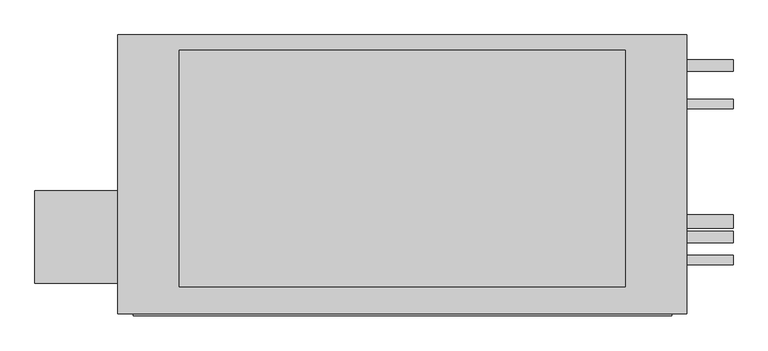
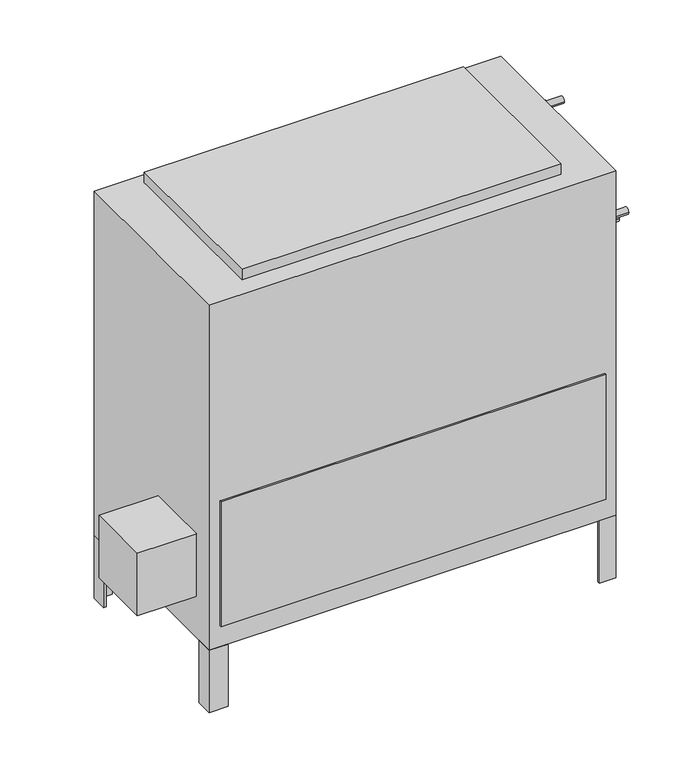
"""IFC4 building model written with IfcOpenShell, lengths in millimetres: proxy geometry, Concealed_High_Capacity_Vertical_Fan_Coil_Unit_-_42DDA_-_CARRIER_-_4-Pipe_RH_2022 : Size 12 - 277v/60Hz/1Ph - 4/2 Coil."""

import ifcopenshell
import ifcopenshell.guid

model = None  # the IFC model being written
_history = None  # IfcOwnerHistory: only IFC2X3 demands one
_inside = {}  # id of a spatial element -> (the spatial element, [elements in it])
_under = {}  # id of a project, library or spatial element -> (it, [spatial elements below it])
_declared = {}  # id of a project -> (the project, [libraries it declares])
_typed = {}  # id of a type object -> (the type object, [elements of that type])
_made_of = {}  # id of a material, layer set ... -> (it, [elements and type objects made of it])


def new_model(schema):
    """Start an empty IFC model of exactly this schema.

    Asked for "IFC4X3", IfcOpenShell would pick the latest addendum, in which some entities
    have other attributes; the version numbers below select the first issue.
    IFC2X3 requires an IfcOwnerHistory on every rooted entity: one is made here for all.
    """
    global model, _history
    if schema == "IFC4X3":
        model = ifcopenshell.file(schema_version=(4, 3, 0, 0))
    else:
        model = ifcopenshell.file(schema=schema)
    _inside.clear()
    _under.clear()
    _declared.clear()
    _typed.clear()
    _made_of.clear()
    _history = None
    if model.schema == "IFC2X3":
        org = make("IfcOrganization", Name="unknown")
        user = make(
            "IfcPersonAndOrganization",
            ThePerson=make("IfcPerson", FamilyName="unknown"),
            TheOrganization=org,
        )
        app = make(
            "IfcApplication",
            ApplicationDeveloper=org,
            Version="unknown",
            ApplicationFullName="unknown",
            ApplicationIdentifier="unknown",
        )
        _history = make(
            "IfcOwnerHistory",
            OwningUser=user,
            OwningApplication=app,
            ChangeAction="ADDED",
            CreationDate=0,
        )
    return model


def make(cls, **values):
    """One entity of the class cls with the attributes given. An attribute that is None is left unset."""
    return model.create_entity(
        cls, **{name: value for name, value in values.items() if value is not None}
    )


def rooted(cls, **values):
    """An entity with a GlobalId (a new one), such as an element, a storey or a relation."""
    return make(cls, GlobalId=ifcopenshell.guid.new(), OwnerHistory=_history, **values)


def si_unit(unit_type, name, prefix=None):
    """IfcSIUnit, for example si_unit("LENGTHUNIT", "METRE", prefix="MILLI")."""
    return make("IfcSIUnit", UnitType=unit_type, Prefix=prefix, Name=name)


def assignment(units):
    """IfcUnitAssignment: the units of a project."""
    return None if units is None else make("IfcUnitAssignment", Units=units)


def point(xyz):
    """IfcCartesianPoint."""
    return None if xyz is None else make("IfcCartesianPoint", Coordinates=xyz)


def direction(xyz):
    """IfcDirection."""
    return None if xyz is None else make("IfcDirection", DirectionRatios=xyz)


def frame(location, z_axis=None, x_axis=None):
    """IfcAxis2Placement3D, a coordinate frame: its origin and axes. An axis left out is left unset."""
    return make(
        "IfcAxis2Placement3D",
        Location=point(location),
        Axis=direction(z_axis),
        RefDirection=direction(x_axis),
    )


def frame_2d(location, x_axis=None):
    """IfcAxis2Placement2D, a coordinate frame in the plane: its origin and x axis."""
    return make(
        "IfcAxis2Placement2D", Location=point(location), RefDirection=direction(x_axis)
    )


def origin():
    """The frame at (0, 0, 0) with its axes left unset."""
    return frame((0.0, 0.0, 0.0))


def origin_with_axes():
    """The frame at (0, 0, 0) with the z axis (0, 0, 1) and the x axis (1, 0, 0) written out."""
    return frame((0.0, 0.0, 0.0), z_axis=(0.0, 0.0, 1.0), x_axis=(1.0, 0.0, 0.0))


def place(relative_to, where):
    """IfcLocalPlacement: puts the frame where relative to a parent placement (None: the world)."""
    return make(
        "IfcLocalPlacement", PlacementRelTo=relative_to, RelativePlacement=where
    )


def context(
    kind, dimensions, precision=None, world=None, true_north=None, identifier=None
):
    """IfcGeometricRepresentationContext, for example the 3D "Model" context."""
    return make(
        "IfcGeometricRepresentationContext",
        ContextIdentifier=identifier,
        ContextType=kind,
        CoordinateSpaceDimension=dimensions,
        Precision=precision,
        WorldCoordinateSystem=world,
        TrueNorth=true_north,
    )


def project(units=None, contexts=None):
    """IfcProject with its units and contexts."""
    return rooted(
        "IfcProject",
        Name="project",
        RepresentationContexts=contexts,
        UnitsInContext=assignment(units),
    )


def spatial(cls, under=None, at=None, **own):
    """A site, building, storey or space (cls), placed at a placement, below another one or the project."""
    s = rooted(cls, ObjectPlacement=at, **own)
    if under is not None:
        _under.setdefault(under.id(), (under, []))[1].append(s)
    return s


def polyline(points):
    """IfcPolyline through the points."""
    return make("IfcPolyline", Points=[point(p) for p in points])


def circle_curve(where, radius):
    """IfcCircle in the frame where."""
    return make("IfcCircle", Position=where, Radius=radius)


def trimmed(basis, trim1, trim2, sense, master):
    """IfcTrimmedCurve: the piece of a basis curve between two trims."""
    return make(
        "IfcTrimmedCurve",
        BasisCurve=basis,
        Trim1=trim1,
        Trim2=trim2,
        SenseAgreement=sense,
        MasterRepresentation=master,
    )


def segment(curve, same_sense, transition):
    """IfcCompositeCurveSegment."""
    return make(
        "IfcCompositeCurveSegment",
        Transition=transition,
        SameSense=same_sense,
        ParentCurve=curve,
    )


def composite_curve(segments, self_intersect=None):
    """IfcCompositeCurve: segments joined end to end."""
    return make("IfcCompositeCurve", Segments=segments, SelfIntersect=self_intersect)


def outline(outer, holes=None, kind="AREA"):
    """IfcArbitraryClosedProfileDef: a profile drawn as a closed curve; with holes, ...WithVoids."""
    if holes is None:
        return make("IfcArbitraryClosedProfileDef", ProfileType=kind, OuterCurve=outer)
    return make(
        "IfcArbitraryProfileDefWithVoids",
        ProfileType=kind,
        OuterCurve=outer,
        InnerCurves=holes,
    )


def extrude(swept, where, along, depth):
    """IfcExtrudedAreaSolid: the profile swept, set in the frame where, extruded along a direction by depth."""
    return make(
        "IfcExtrudedAreaSolid",
        SweptArea=swept,
        Position=where,
        ExtrudedDirection=direction(along),
        Depth=depth,
    )


def shape(context_of_items, identifier, shape_type, items):
    """IfcShapeRepresentation: the items that make up one representation, for example the "Body"."""
    return make(
        "IfcShapeRepresentation",
        ContextOfItems=context_of_items,
        RepresentationIdentifier=identifier,
        RepresentationType=shape_type,
        Items=items,
    )


def source(mapping_origin, context_of_items, identifier, shape_type, items):
    """IfcRepresentationMap: a shape defined once, which mapped items show again and again."""
    return make(
        "IfcRepresentationMap",
        MappingOrigin=mapping_origin,
        MappedRepresentation=shape(context_of_items, identifier, shape_type, items),
    )


def transform(
    local_origin,
    x_axis=None,
    y_axis=None,
    z_axis=None,
    scale=None,
    scale2=None,
    scale3=None,
    uniform=True,
):
    """IfcCartesianTransformationOperator3D, or its non-uniform kind. x_axis, y_axis, z_axis: its Axis1, 2, 3."""
    if uniform:
        return make(
            "IfcCartesianTransformationOperator3D",
            Axis1=direction(x_axis),
            Axis2=direction(y_axis),
            LocalOrigin=point(local_origin),
            Scale=scale,
            Axis3=direction(z_axis),
        )
    return make(
        "IfcCartesianTransformationOperator3DnonUniform",
        Axis1=direction(x_axis),
        Axis2=direction(y_axis),
        LocalOrigin=point(local_origin),
        Scale=scale,
        Axis3=direction(z_axis),
        Scale2=scale2,
        Scale3=scale3,
    )


def mapped(mapping_source, mapping_target):
    """IfcMappedItem: shows the shape of a source again, moved by a transform."""
    return make(
        "IfcMappedItem", MappingSource=mapping_source, MappingTarget=mapping_target
    )


def made_of(thing, what):
    """Note that an element or type object is made of a material, layer set ...; save() writes the relation."""
    if what is not None:
        _made_of.setdefault(what.id(), (what, []))[1].append(thing)
    return thing


def element(
    cls,
    number,
    at=None,
    inside=None,
    cuts=None,
    type_object=None,
    material=None,
    context=None,
    identifier="Body",
    shape_type=None,
    held_by="IfcProductDefinitionShape",
    body=None,
    shapes=None,
    **own,
):
    """One element of the class cls, such as IfcWall. Its Tag is "e" and its number.

    at: its placement. inside: the storey or other place that contains it. cuts: it is an
    opening in that element (IfcRelVoidsElement). A single representation is given by context,
    identifier, shape_type and body (its items); several are given by shapes. held_by: the class
    of the entity that holds the representations. save() writes the other relations.
    """
    e = rooted(cls, Tag="e%d" % number, ObjectPlacement=at, **own)
    if body is not None:
        shapes = [shape(context, identifier, shape_type, body)]
    if shapes is not None:
        e.Representation = make(held_by, Representations=shapes)
    if inside is not None:
        _inside.setdefault(inside.id(), (inside, []))[1].append(e)
    if cuts is not None:
        rooted(
            "IfcRelVoidsElement", RelatingBuildingElement=cuts, RelatedOpeningElement=e
        )
    if type_object is not None:
        _typed.setdefault(type_object.id(), (type_object, []))[1].append(e)
    return made_of(e, material)


def aggregate(whole, parts):
    """IfcRelAggregates: a whole, such as a stair, and the parts it consists of."""
    return rooted("IfcRelAggregates", RelatingObject=whole, RelatedObjects=parts)


def save(model, path):
    """Write the relations noted so far, then the file.

    IfcRelAggregates (storeys below a building ...), IfcRelContainedInSpatialStructure (elements
    in a storey), IfcRelDefinesByType, IfcRelAssociatesMaterial and IfcRelDeclares: one each for
    every whole, place, type object, material and project.
    """
    for whole, parts in _under.values():
        aggregate(whole, parts)
    for where, things in _inside.values():
        rooted(
            "IfcRelContainedInSpatialStructure",
            RelatedElements=things,
            RelatingStructure=where,
        )
    for kind, things in _typed.values():
        rooted("IfcRelDefinesByType", RelatedObjects=things, RelatingType=kind)
    for what, things in _made_of.values():
        rooted("IfcRelAssociatesMaterial", RelatedObjects=things, RelatingMaterial=what)
    for by, libraries in _declared.values():
        rooted("IfcRelDeclares", RelatingContext=by, RelatedDefinitions=libraries)
    model.write(path)


def mechanical_equipment_dd7bbd71(model_context):
    return source(origin(), model_context, "Body", "SweptSolid", [
        extrude(outline(polyline([(-454.025, -417.5125), (-454.025, -265.1125), (-317.5, -265.1125), (-317.5, -417.5125), (-454.025, -417.5125)])), frame((0.0, 0.0, 101.6), z_axis=(0.0, 0.0, 1.0), x_axis=(1.0, 0.0, 0.0)), (0.0, 0.0, 1.0), 152.4),
        extrude(outline(polyline([(622.3, -46.0375), (615.95, -46.0375), (615.95, -14.2875), (584.2, -14.2875), (584.2, -7.9375), (622.3, -7.9375), (622.3, -46.0375)])), frame((0.0, 0.0, -152.4), z_axis=(0.0, 0.0, 1.0), x_axis=(1.0, 0.0, 0.0)), (0.0, 0.0, 1.0), 152.4),
        extrude(outline(polyline([(-279.4, -7.9375), (-279.4, -14.2875), (-311.15, -14.2875), (-311.15, -46.0375), (-317.5, -46.0375), (-317.5, -7.9375), (-279.4, -7.9375)])), frame((0.0, 0.0, -152.4), z_axis=(0.0, 0.0, 1.0), x_axis=(1.0, 0.0, 0.0)), (0.0, 0.0, 1.0), 152.4),
        extrude(outline(polyline([(584.2, -468.3125), (584.2, -461.9625), (615.95, -461.9625), (615.95, -430.2125), (622.3, -430.2125), (622.3, -468.3125), (584.2, -468.3125)])), frame((0.0, 0.0, -152.4), z_axis=(0.0, 0.0, 1.0), x_axis=(1.0, 0.0, 0.0)), (0.0, 0.0, 1.0), 152.4),
        extrude(outline(polyline([(-317.5, -428.1199163), (-311.15, -428.1199163), (-311.15, -461.9625), (-274.0318533, -461.9625), (-274.0318533, -468.3125), (-317.5, -468.3125), (-317.5, -428.1199163)])), frame((0.0, 0.0, -152.4), z_axis=(0.0, 0.0, 1.0), x_axis=(1.0, 0.0, 0.0)), (0.0, 0.0, 1.0), 152.4),
        extrude(outline(polyline([(520.7, -33.3375), (520.7, -423.8625), (-215.9, -423.8625), (-215.9, -33.3375), (520.7, -33.3375)])), frame((0.0, 0.0, 841.375), z_axis=(0.0, 0.0, 1.0), x_axis=(1.0, 0.0, 0.0)), (0.0, 0.0, 1.0), 25.4),
        extrude(outline(polyline([(596.9, -471.4875), (-292.1, -471.4875), (-292.1, -468.3125), (596.9, -468.3125), (596.9, -471.4875)])), frame((0.0, 0.0, 50.8), z_axis=(0.0, 0.0, 1.0), x_axis=(1.0, 0.0, 0.0)), (0.0, 0.0, 1.0), 304.8),
        extrude(outline(composite_curve([segment(trimmed(circle_curve(frame_2d((-122.2375, 777.875)), 7.9375), [point((-114.3, 777.875))], [point((-130.175, 777.875))], False, "CARTESIAN"), True, "CONTINUOUS"), segment(trimmed(circle_curve(frame_2d((-122.2375, 777.875)), 7.9375), [point((-130.175, 777.875))], [point((-114.3, 777.875))], False, "CARTESIAN"), True, "CONTINUOUS")], self_intersect=False)), frame((622.3, 0.0, 0.0), z_axis=(1.0, 0.0, 0.0), x_axis=(0.0, 1.0, 0.0)), (0.0, 0.0, 1.0), 76.2),
        extrude(outline(composite_curve([segment(trimmed(circle_curve(frame_2d((-379.4125, 663.575)), 7.9375), [point((-371.475, 663.575))], [point((-387.35, 663.575))], False, "CARTESIAN"), True, "CONTINUOUS"), segment(trimmed(circle_curve(frame_2d((-379.4125, 663.575)), 7.9375), [point((-387.35, 663.575))], [point((-371.475, 663.575))], False, "CARTESIAN"), True, "CONTINUOUS")], self_intersect=False)), frame((622.3, 0.0, 0.0), z_axis=(1.0, 0.0, 0.0), x_axis=(0.0, 1.0, 0.0)), (0.0, 0.0, 1.0), 76.2),
        extrude(outline(composite_curve([segment(trimmed(circle_curve(frame_2d((-58.7375, 727.075)), 9.525), [point((-49.2125, 727.075))], [point((-68.2625, 727.075))], False, "CARTESIAN"), True, "CONTINUOUS"), segment(trimmed(circle_curve(frame_2d((-58.7375, 727.075)), 9.525), [point((-68.2625, 727.075))], [point((-49.2125, 727.075))], False, "CARTESIAN"), True, "CONTINUOUS")], self_intersect=False)), frame((622.3, 0.0, 0.0), z_axis=(1.0, 0.0, 0.0), x_axis=(0.0, 1.0, 0.0)), (0.0, 0.0, 1.0), 76.2),
        extrude(outline(composite_curve([segment(trimmed(circle_curve(frame_2d((-341.3125, 625.475)), 9.525), [point((-331.7875, 625.475))], [point((-350.8375, 625.475))], False, "CARTESIAN"), True, "CONTINUOUS"), segment(trimmed(circle_curve(frame_2d((-341.3125, 625.475)), 9.525), [point((-350.8375, 625.475))], [point((-331.7875, 625.475))], False, "CARTESIAN"), True, "CONTINUOUS")], self_intersect=False)), frame((622.3, 0.0, 0.0), z_axis=(1.0, 0.0, 0.0), x_axis=(0.0, 1.0, 0.0)), (0.0, 0.0, 1.0), 76.2),
        extrude(outline(composite_curve([segment(trimmed(circle_curve(frame_2d((-315.9125, 536.575)), 11.1125), [point((-304.8, 536.575))], [point((-327.025, 536.575))], False, "CARTESIAN"), True, "CONTINUOUS"), segment(trimmed(circle_curve(frame_2d((-315.9125, 536.575)), 11.1125), [point((-327.025, 536.575))], [point((-304.8, 536.575))], False, "CARTESIAN"), True, "CONTINUOUS")], self_intersect=False)), frame((622.3, 0.0, 0.0), z_axis=(1.0, 0.0, 0.0), x_axis=(0.0, 1.0, 0.0)), (0.0, 0.0, 1.0), 76.2),
        extrude(outline(polyline([(622.3, -7.9375), (622.3, -468.3125), (-317.5, -468.3125), (-317.5, -7.9375), (622.3, -7.9375)])), origin_with_axes(), (0.0, 0.0, 1.0), 841.375),
    ])


if __name__ == "__main__":
    model = new_model("IFC4")
    model_context = context("Model", 3, world=origin())
    ifc_project = project(units=[si_unit("LENGTHUNIT", "METRE", prefix="MILLI")], contexts=[model_context])
    site = spatial("IfcSite", under=ifc_project)
    building = spatial("IfcBuilding", under=site)
    placement = place(None, origin())
    mechanical_equipment_shape = mechanical_equipment_dd7bbd71(model_context)
    element("IfcBuildingElementProxy", 1, Name="Concealed_High_Capacity_Vertical_Fan_Coil_Unit_-_42DDA_-_CARRIER_-_4-Pipe_RH_2022 : Size 12 - 277v/60Hz/1Ph - 4/2 Coil", ObjectType="Concealed_High_Capacity_Vertical_Fan_Coil_Unit_-_42DDA_-_CARRIER_-_4-Pipe_RH_2022 : Size 12 - 277v/60Hz/1Ph - 4/2 Coil", at=placement, inside=building, context=model_context, shape_type="MappedRepresentation", body=[
        mapped(mechanical_equipment_shape, transform((0.0, 0.0, 0.0), x_axis=(1.0, 0.0, 0.0), y_axis=(0.0, 1.0, 0.0), z_axis=(0.0, 0.0, 1.0))),
    ])
    save(model, "model.ifc")
